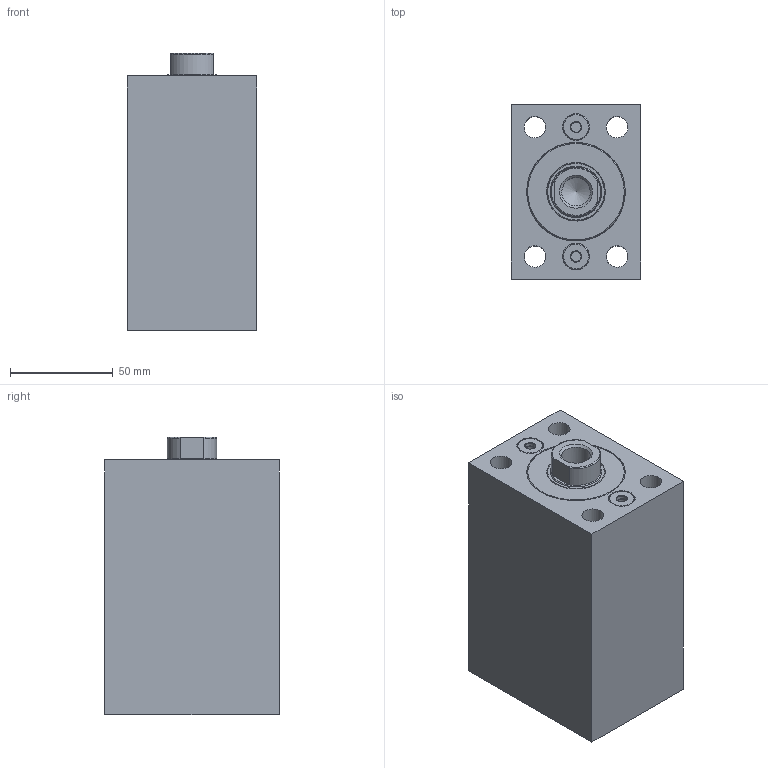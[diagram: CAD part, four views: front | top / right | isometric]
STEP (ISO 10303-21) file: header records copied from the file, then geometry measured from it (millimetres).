
FILE_DESCRIPTION( ( 'STEP AP203' ), '1' );
FILE_NAME( 'C:/Users/SAYKO.ltd/Desktop/SBZ100/07/SBZ100-40/SBZ100.40__FORM_07_STROKE_50__H2_49_POS_0_.stp', ' ', ( ' ' ), ( ' ' ), 'PSStep 15.0.47', 'PARTsolutions', ' ' );
FILE_SCHEMA( ( 'CONFIG_CONTROL_DESIGN' ) );
Length unit declared in the file: millimetre
Products named in the file (5): SBZ100.40  FORM=07 STROKE=50 (H2=49 POS=0); HI_SBZ10040  FORM=07 STROKE=50 H2=49 -C; HI_SBZ10040  FORM=07 STROKE=50-R; HI_SBZ100.40-C; HI_SBZ100.40-S
Assembly tree (4 placements, depth 2):
  SBZ100.40  FORM=07 STROKE=50 (H2=49 POS=0)
    HI_SBZ10040  FORM=07 STROKE=50 H2=49 -C
    HI_SBZ10040  FORM=07 STROKE=50-R
    HI_SBZ100.40-C
    HI_SBZ100.40-S
Bounding box: 63 x 85 x 135 mm (x, y, z)
Volume: 573246.1 mm3; surface area: 107883.5 mm2
Topology: 4 solids, 4 shells, 74 faces, 136 edges, 87 vertices
Faces by surface type: plane 33, cylinder 28, cone 10, torus 3
Full cylindrical faces by diameter (mm): 5 x4, 10.5 x4, 13 x2, 13.835 x1, 18 x4, 25 x4, 28.5 x1, 33 x2, 40 x2, 48 x2
Entity records: 3979 total; most frequent: CARTESIAN_POINT 2649, ORIENTED_EDGE 188, DIRECTION 178, EDGE_LOOP 140, FACE_OUTER_BOUND 101, EDGE_CURVE 94, VERTEX_POINT 83, AXIS2_PLACEMENT_3D 81
